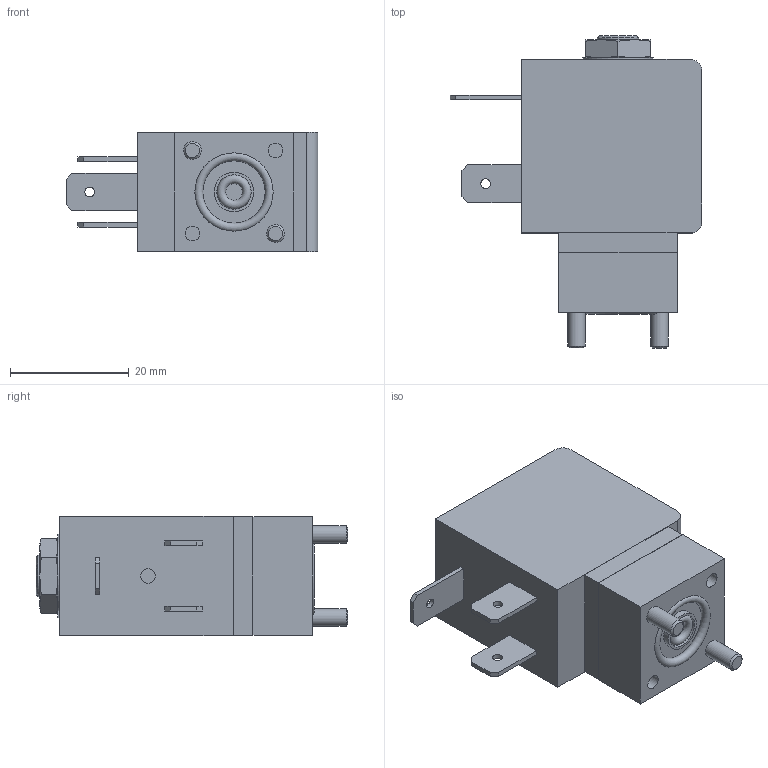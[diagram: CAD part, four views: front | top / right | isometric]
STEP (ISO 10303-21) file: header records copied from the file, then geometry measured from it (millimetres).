
FILE_DESCRIPTION(/* description */ ('STEP AP214'),/* implementation_level */ '2;1');
FILE_NAME(/* name */ '7011-00390052Plunger_valve_2_2_way_direct_acting',/* time_stamp */ '2025-05-18T14:16:13+02:00',/* author */ ('License CC BY-ND 4.0'),/* organization */ ('CADENAS'),/* preprocessor_version */ 'ST-DEVELOPER v19.3',/* originating_system */ 'PARTsolutions',/* authorisation */ ' ');
FILE_SCHEMA (('AUTOMOTIVE_DESIGN {1 0 10303 214 3 1 1}'));
Length unit declared in the file: millimetre
Products named in the file (1): 7011-00390052Plunger valve 2/2 way direct acting
Bounding box: 42.45 x 52.55 x 20.1 mm (x, y, z)
Volume: 23615 mm3; surface area: 6345.3 mm2
Topology: 1 solids, 1 shells, 112 faces, 265 edges, 174 vertices
Faces by surface type: plane 77, cylinder 18, cone 15, torus 2
Full cylindrical faces by diameter (mm): 1.65 x3, 2.45 x1, 2.5 x2, 3 x2, 5.8 x1, 6.7 x1, 7 x1, 9 x1
Entity records: 3899 total; most frequent: CARTESIAN_POINT 593, DIRECTION 498, ORIENTED_EDGE 482, EDGE_CURVE 241, AXIS2_PLACEMENT_3D 168, VERTEX_POINT 167, LINE 162, VECTOR 162
